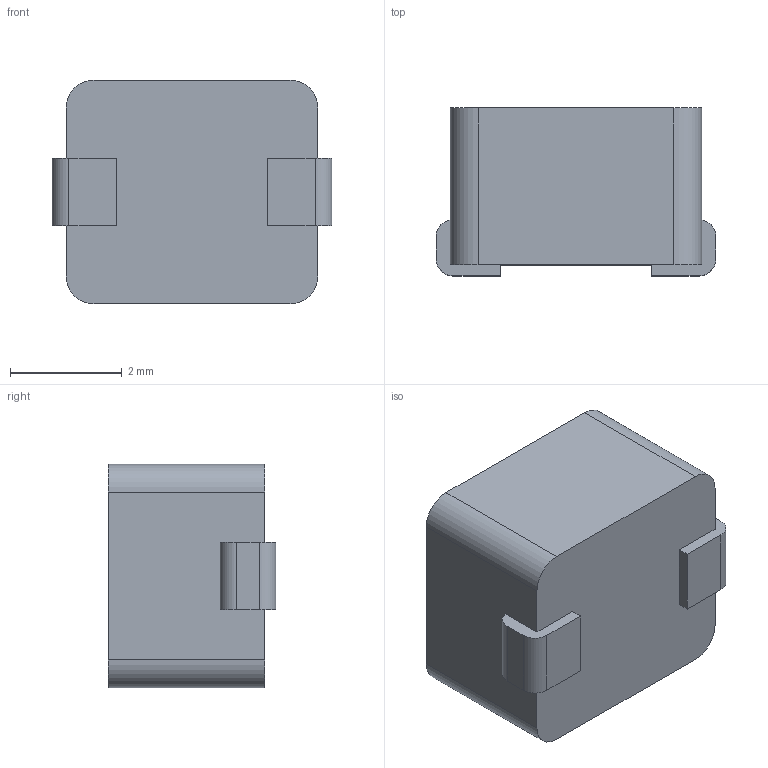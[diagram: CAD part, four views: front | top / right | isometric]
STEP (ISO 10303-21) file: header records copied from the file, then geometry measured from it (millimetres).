
FILE_DESCRIPTION (( 'STEP AP214' ), '1' );
FILE_NAME ('TZB4A.STEP', '2011-11-18T12:36:56', ( 'vpeshkov' ), ( 'ELCORT' ), 'SwSTEP 2.0', 'SolidWorks 2009', '' );
FILE_SCHEMA (( 'AUTOMOTIVE_DESIGN' ));
Length unit declared in the file: millimetre
Products named in the file (1): TZB4A
Bounding box: 5 x 3 x 4 mm (x, y, z)
Volume: 44.1 mm3; surface area: 113.9 mm2
Topology: 1 solids, 1 shells, 50 faces, 136 edges, 90 vertices
Faces by surface type: plane 33, cylinder 15, cone 2
Entity records: 2062 total; most frequent: CARTESIAN_POINT 319, ORIENTED_EDGE 272, DIRECTION 254, EDGE_CURVE 136, VECTOR 92, LINE 92, VERTEX_POINT 90, AXIS2_PLACEMENT_3D 81
